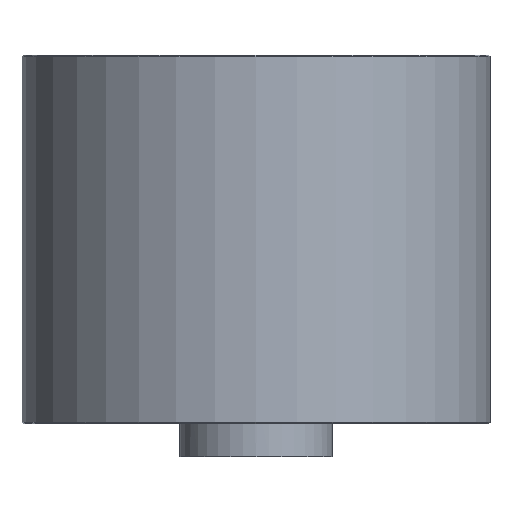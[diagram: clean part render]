
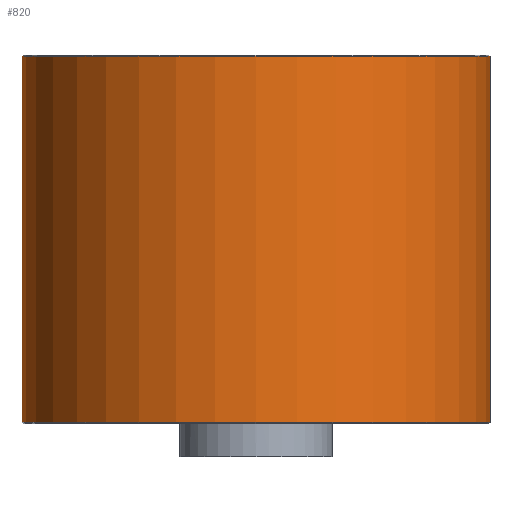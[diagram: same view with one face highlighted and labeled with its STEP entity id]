
A CAD part, front view. The second image highlights one B-rep face of the part: STEP entity #820.
In plain terms, the highlighted cylindrical face has radius 40 mm (diameter 80 mm), a full revolution.
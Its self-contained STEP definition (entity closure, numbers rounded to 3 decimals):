
#324=CYLINDRICAL_SURFACE('',#3323,40.);
#820=ADVANCED_FACE('',(#1045,#1046),#324,.T.);
#1045=FACE_BOUND('',#1158,.T.);
#1046=FACE_BOUND('',#1159,.T.);
#1158=EDGE_LOOP('',(#1613));
#1159=EDGE_LOOP('',(#1614));
#1613=ORIENTED_EDGE('',*,*,#2714,.T.);
#1614=ORIENTED_EDGE('',*,*,#2713,.F.);
#2350=VERTEX_POINT('',#4920);
#2351=VERTEX_POINT('',#4923);
#2713=EDGE_CURVE('',#2350,#2350,#3109,.T.);
#2714=EDGE_CURVE('',#2351,#2351,#3110,.T.);
#3109=CIRCLE('',#3320,40.);
#3110=CIRCLE('',#3322,40.);
#3320=AXIS2_PLACEMENT_3D('',#4919,#3882,#3883);
#3322=AXIS2_PLACEMENT_3D('',#4922,#3886,#3887);
#3323=AXIS2_PLACEMENT_3D('',#4924,#3888,#3889);
#3882=DIRECTION('',(0.,0.,-1.));
#3883=DIRECTION('',(-1.,0.,0.));
#3886=DIRECTION('',(0.,0.,-1.));
#3887=DIRECTION('',(-1.,0.,0.));
#3888=DIRECTION('',(0.,0.,-1.));
#3889=DIRECTION('',(-1.,0.,0.));
#4919=CARTESIAN_POINT('',(81.676,34.681,33.894));
#4920=CARTESIAN_POINT('',(41.676,34.681,33.894));
#4922=CARTESIAN_POINT('',(81.676,34.681,96.494));
#4923=CARTESIAN_POINT('',(41.676,34.681,96.494));
#4924=CARTESIAN_POINT('',(81.676,34.681,31.454));
